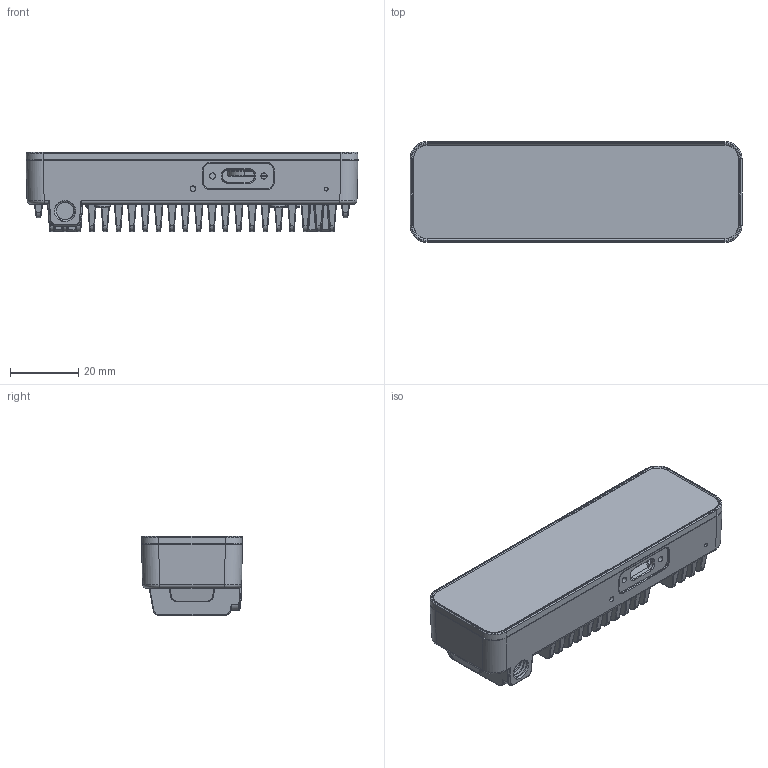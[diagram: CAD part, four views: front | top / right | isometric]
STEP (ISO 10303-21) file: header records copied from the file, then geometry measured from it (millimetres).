
FILE_DESCRIPTION((''),'2;1');
FILE_NAME('OAK-D-S2-W_ENCLOSURE_ASM','2022-08-11T18:39:54',('TWSung'),(''),'CREO PARAMETRIC BY PTC INC, 2020154','CREO PARAMETRIC BY PTC INC, 2020154','');
FILE_SCHEMA(('CONFIG_CONTROL_DESIGN'));
Products named in the file (11): 606-00013-02_6; D-S2-W-LENS-ADHESIVE_2; D-S2-W-GLASS-LENS_2; 609-00010-01_ASM_6_ASM; 606-00014-02_5; 611-00018_9; 611-00020_16; 612-00002_6; 602-00007_1; 010-00018-01_ASM_23_ASM; OAK-D-S2-W_ENCLOSURE_ASM
Assembly tree (14 placements, depth 4):
  OAK-D-S2-W_ENCLOSURE_ASM
    010-00018-01_ASM_23_ASM
      606-00013-02_6
      609-00010-01_ASM_6_ASM
        D-S2-W-LENS-ADHESIVE_2
        D-S2-W-GLASS-LENS_2
      606-00014-02_5
      611-00018_9
      611-00020_16  x2
      612-00002_6
      602-00007_1  x4
Bounding box: 97 x 29.5 x 23.1 mm (x, y, z)
Volume: 28902.8 mm3; surface area: 37879.7 mm2
Topology: 12 solids, 12 shells, 2067 faces, 5559 edges, 3559 vertices
Faces by surface type: cylinder 898, plane 437, bspline 385, torus 172, cone 157, sphere 10, extrusion 8
Entity records: 82846 total; most frequent: CARTESIAN_POINT 43657, ORIENTED_EDGE 8814, DIRECTION 7295, EDGE_CURVE 4407, AXIS2_PLACEMENT_3D 2771, VERTEX_POINT 2762, EDGE_LOOP 1789, VECTOR 1753
